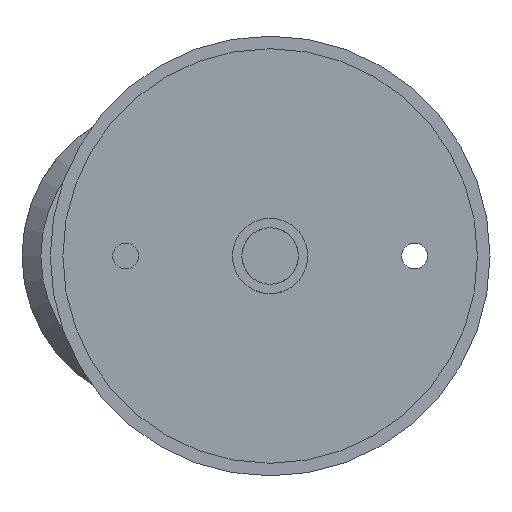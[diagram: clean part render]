
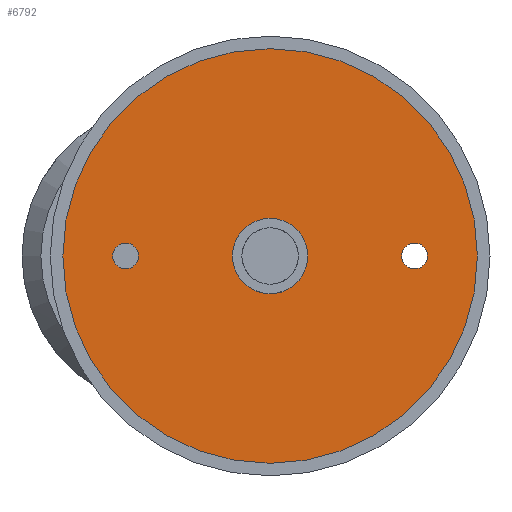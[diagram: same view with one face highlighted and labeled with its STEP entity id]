
A CAD part, front view. The second image highlights one B-rep face of the part: STEP entity #6792.
In plain terms, the highlighted planar face has unit normal (0, -1, 0).
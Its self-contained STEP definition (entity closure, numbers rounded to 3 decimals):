
#6444=CARTESIAN_POINT('',(15.,-93.,0.));
#6445=DIRECTION('',(0.,1.,0.));
#6446=DIRECTION('',(0.,0.,1.));
#6447=AXIS2_PLACEMENT_3D('',#6444,#6445,#6446);
#6449=CARTESIAN_POINT('',(15.,-93.,0.));
#6450=DIRECTION('',(0.,1.,0.));
#6451=DIRECTION('',(0.,0.,-1.));
#6452=AXIS2_PLACEMENT_3D('',#6449,#6450,#6451);
#6454=CARTESIAN_POINT('',(38.,-93.,0.));
#6455=DIRECTION('',(0.,-1.,0.));
#6456=DIRECTION('',(1.,0.,0.));
#6457=AXIS2_PLACEMENT_3D('',#6454,#6455,#6456);
#6459=CARTESIAN_POINT('',(38.,-93.,0.));
#6460=DIRECTION('',(0.,-1.,0.));
#6461=DIRECTION('',(-1.,0.,0.));
#6462=AXIS2_PLACEMENT_3D('',#6459,#6460,#6461);
#6464=CARTESIAN_POINT('',(-8.,-93.,0.));
#6465=DIRECTION('',(0.,-1.,0.));
#6466=DIRECTION('',(1.,0.,0.));
#6467=AXIS2_PLACEMENT_3D('',#6464,#6465,#6466);
#6469=CARTESIAN_POINT('',(-8.,-93.,0.));
#6470=DIRECTION('',(0.,-1.,0.));
#6471=DIRECTION('',(-1.,0.,0.));
#6472=AXIS2_PLACEMENT_3D('',#6469,#6470,#6471);
#6474=CARTESIAN_POINT('',(15.,-93.,0.));
#6475=DIRECTION('',(0.,-1.,0.));
#6476=DIRECTION('',(-1.,0.,0.));
#6477=AXIS2_PLACEMENT_3D('',#6474,#6475,#6476);
#6479=CARTESIAN_POINT('',(15.,-93.,0.));
#6480=DIRECTION('',(0.,-1.,0.));
#6481=DIRECTION('',(1.,0.,0.));
#6482=AXIS2_PLACEMENT_3D('',#6479,#6480,#6481);
#6488=CARTESIAN_POINT('',(15.,-93.,33.));
#6489=CARTESIAN_POINT('',(15.,-93.,-33.));
#6490=VERTEX_POINT('',#6488);
#6491=VERTEX_POINT('',#6489);
#6504=CARTESIAN_POINT('',(35.95,-93.,0.));
#6505=CARTESIAN_POINT('',(40.05,-93.,0.));
#6506=VERTEX_POINT('',#6504);
#6507=VERTEX_POINT('',#6505);
#6508=CARTESIAN_POINT('',(-10.05,-93.,0.));
#6509=CARTESIAN_POINT('',(-5.95,-93.,0.));
#6510=VERTEX_POINT('',#6508);
#6511=VERTEX_POINT('',#6509);
#6528=CARTESIAN_POINT('',(21.,-93.,0.));
#6529=CARTESIAN_POINT('',(9.,-93.,0.));
#6530=VERTEX_POINT('',#6528);
#6531=VERTEX_POINT('',#6529);
#6765=CARTESIAN_POINT('',(15.,-93.,0.));
#6766=DIRECTION('',(0.,1.,0.));
#6767=DIRECTION('',(0.,0.,1.));
#6768=AXIS2_PLACEMENT_3D('',#6765,#6766,#6767);
#6769=PLANE('',#6768);
#6770=ORIENTED_EDGE('',*,*,#6745,.T.);
#6771=ORIENTED_EDGE('',*,*,#6759,.T.);
#6772=EDGE_LOOP('',(#6770,#6771));
#6773=FACE_OUTER_BOUND('',#6772,.F.);
#6775=ORIENTED_EDGE('',*,*,#6774,.T.);
#6777=ORIENTED_EDGE('',*,*,#6776,.T.);
#6778=EDGE_LOOP('',(#6775,#6777));
#6779=FACE_BOUND('',#6778,.F.);
#6781=ORIENTED_EDGE('',*,*,#6780,.T.);
#6783=ORIENTED_EDGE('',*,*,#6782,.T.);
#6784=EDGE_LOOP('',(#6781,#6783));
#6785=FACE_BOUND('',#6784,.F.);
#6787=ORIENTED_EDGE('',*,*,#6786,.T.);
#6789=ORIENTED_EDGE('',*,*,#6788,.T.);
#6790=EDGE_LOOP('',(#6787,#6789));
#6791=FACE_BOUND('',#6790,.F.);
#6792=ADVANCED_FACE('',(#6773,#6779,#6785,#6791),#6769,.F.);
#6448=CIRCLE('',#6447,33.);
#6453=CIRCLE('',#6452,33.);
#6458=CIRCLE('',#6457,2.05);
#6463=CIRCLE('',#6462,2.05);
#6468=CIRCLE('',#6467,2.05);
#6473=CIRCLE('',#6472,2.05);
#6478=CIRCLE('',#6477,6.);
#6483=CIRCLE('',#6482,6.);
#6745=EDGE_CURVE('',#6490,#6491,#6448,.T.);
#6759=EDGE_CURVE('',#6491,#6490,#6453,.T.);
#6774=EDGE_CURVE('',#6507,#6506,#6458,.T.);
#6776=EDGE_CURVE('',#6506,#6507,#6463,.T.);
#6780=EDGE_CURVE('',#6511,#6510,#6468,.T.);
#6782=EDGE_CURVE('',#6510,#6511,#6473,.T.);
#6786=EDGE_CURVE('',#6531,#6530,#6478,.T.);
#6788=EDGE_CURVE('',#6530,#6531,#6483,.T.);
